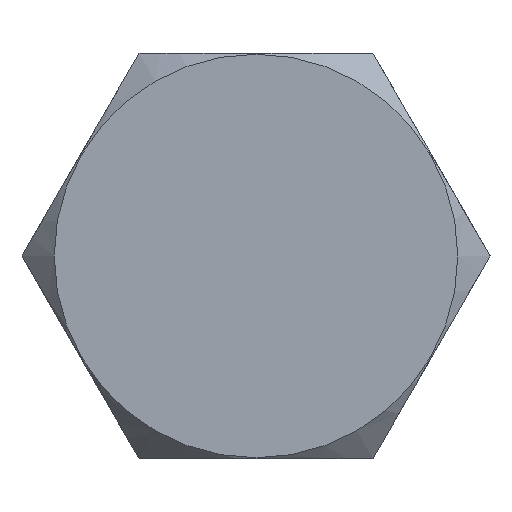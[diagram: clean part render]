
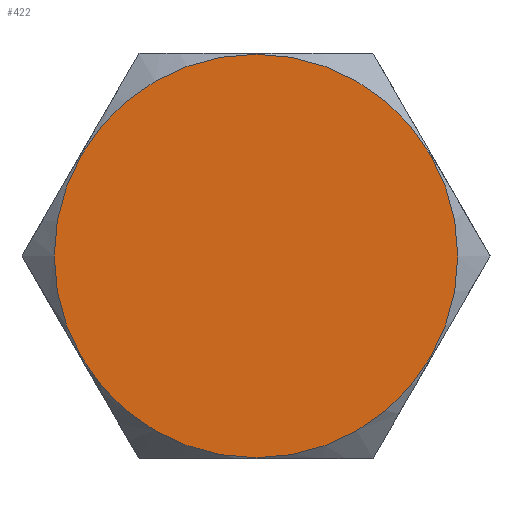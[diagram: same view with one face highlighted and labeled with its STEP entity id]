
A CAD part, front view. The second image highlights one B-rep face of the part: STEP entity #422.
In plain terms, the highlighted planar face has unit normal (0, -1, 0).
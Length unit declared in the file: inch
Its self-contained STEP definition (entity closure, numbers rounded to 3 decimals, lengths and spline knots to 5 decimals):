
#42=PLANE('',#484);
#80=FACE_OUTER_BOUND('',#109,.T.);
#109=EDGE_LOOP('',(#393));
#174=CIRCLE('',#483,0.56);
#213=VERTEX_POINT('',#836);
#272=EDGE_CURVE('',#213,#213,#174,.T.);
#393=ORIENTED_EDGE('',*,*,#272,.F.);
#422=ADVANCED_FACE('',(#80),#42,.T.);
#483=AXIS2_PLACEMENT_3D('',#837,#598,#599);
#484=AXIS2_PLACEMENT_3D('',#839,#601,#602);
#598=DIRECTION('center_axis',(0.,1.,0.));
#599=DIRECTION('ref_axis',(0.,0.,1.));
#601=DIRECTION('center_axis',(0.,-1.,0.));
#602=DIRECTION('ref_axis',(0.,0.,-1.));
#836=CARTESIAN_POINT('',(0.,0.,-0.56));
#837=CARTESIAN_POINT('Origin',(0.,0.,0.));
#839=CARTESIAN_POINT('Origin',(0.,0.,0.));
